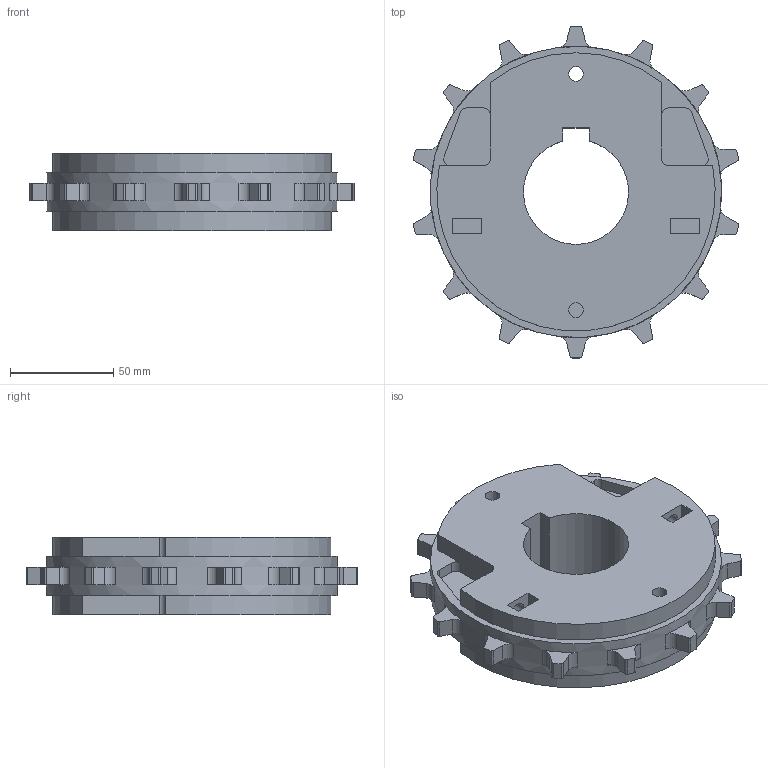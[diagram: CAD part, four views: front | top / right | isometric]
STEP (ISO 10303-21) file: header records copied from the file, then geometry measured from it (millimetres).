
FILE_DESCRIPTION((''),'2;1');
FILE_NAME('S1200_SPLIT_65_RND','2008-12-12T',('jmumphre'),(''),'PRO/ENGINEER BY PARAMETRIC TECHNOLOGY CORPORATION, 2008150','PRO/ENGINEER BY PARAMETRIC TECHNOLOGY CORPORATION, 2008150','');
FILE_SCHEMA(('CONFIG_CONTROL_DESIGN'));
Length unit declared in the file: inch
Products named in the file (1): S1200_SPLIT_65_RND
Bounding box: 157.42 x 160.56 x 37.59 mm (x, y, z)
Volume: 443910.2 mm3; surface area: 61750.2 mm2
Topology: 1 solids, 1 shells, 209 faces, 558 edges, 372 vertices
Faces by surface type: plane 118, cylinder 91
Entity records: 6646 total; most frequent: DIRECTION 1186, CARTESIAN_POINT 1139, ORIENTED_EDGE 1116, EDGE_CURVE 558, AXIS2_PLACEMENT_3D 419, VERTEX_POINT 372, VECTOR 348, LINE 348
